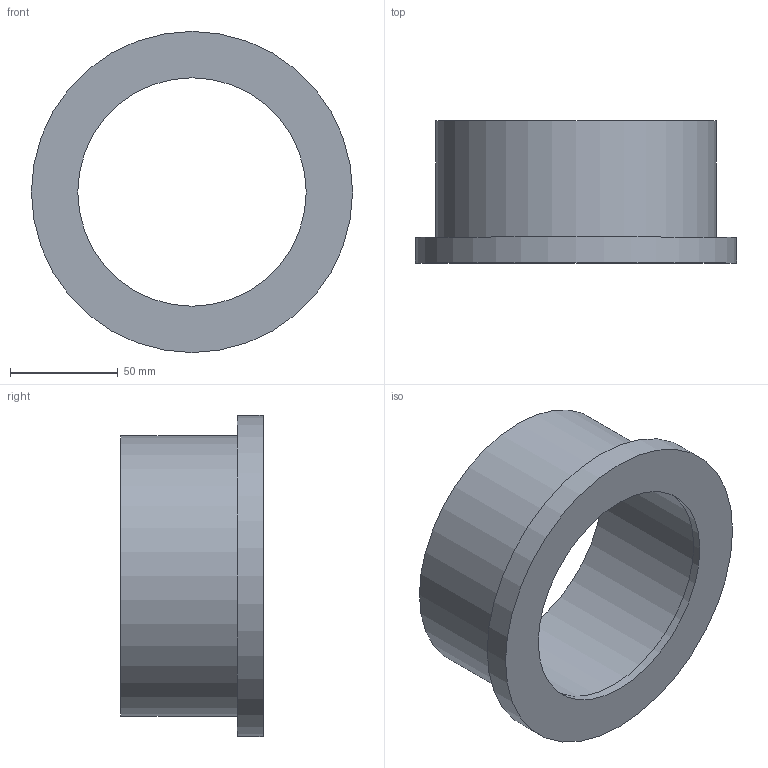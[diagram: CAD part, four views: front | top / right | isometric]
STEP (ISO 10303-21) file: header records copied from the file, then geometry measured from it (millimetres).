
FILE_DESCRIPTION(/* description */ ('PVC collare rigato incollaggio metrico'),/* implementation_level */ '2;1');
FILE_NAME(/* name */ 'C:\Users\POLYPIPE\Desktop\DATASET INVENTOR\LIBRERIA EFFAST\RACCORDI 3DxWEB\RDR\3D_RDRQRD\3D_RDRQRD1100.stp',/* time_stamp */ '2018-01-19T15:26:08+01:00',/* author */ ('POLYPIPE'),/* organization */ ('Polypipe Italia s.r.l.'),/* preprocessor_version */ 'ST-DEVELOPER v16.1',/* originating_system */ 'Autodesk Inventor 2016',/* authorisation */ '');
FILE_SCHEMA (('CONFIG_CONTROL_DESIGN'));
Length unit declared in the file: millimetre
Products named in the file (1): 3D_RDRQRD
Bounding box: 149 x 66 x 149 mm (x, y, z)
Volume: 301489.2 mm3; surface area: 67652.6 mm2
Topology: 1 solids, 1 shells, 8 faces, 12 edges, 8 vertices
Faces by surface type: plane 4, cylinder 4
Full cylindrical faces by diameter (mm): 106 x1, 110 x1, 130 x1, 149 x1
Entity records: 192 total; most frequent: DIRECTION 34, CARTESIAN_POINT 25, AXIS2_PLACEMENT_3D 17, EDGE_LOOP 16, ORIENTED_EDGE 16, FACE_BOUND 8, FACE_OUTER_BOUND 8, CIRCLE 8
